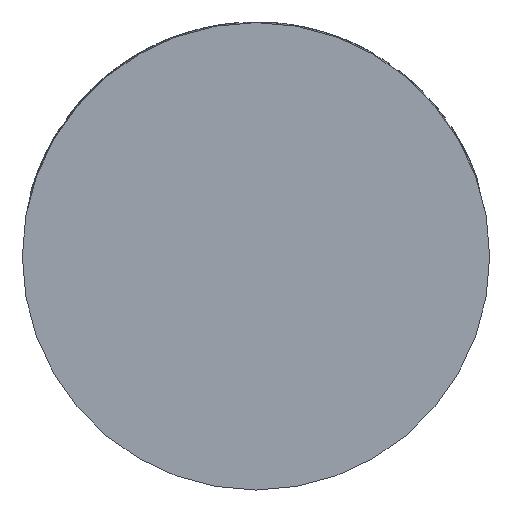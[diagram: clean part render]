
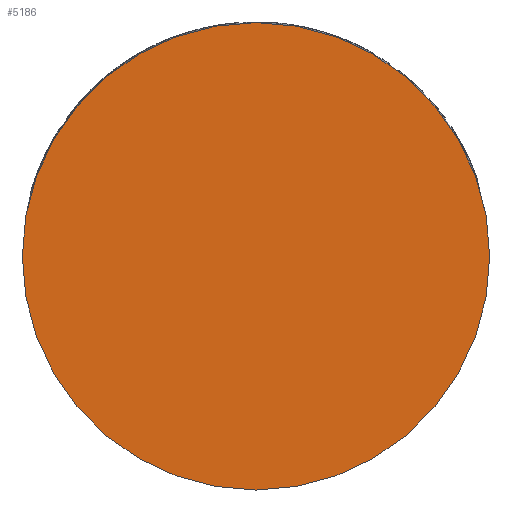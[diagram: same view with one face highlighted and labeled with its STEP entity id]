
A CAD part, front view. The second image highlights one B-rep face of the part: STEP entity #5186.
In plain terms, the highlighted planar face has unit normal (0, -1, 0).
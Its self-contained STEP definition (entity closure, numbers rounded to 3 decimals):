
#219=PLANE('',#5538);
#612=FACE_OUTER_BOUND('',#929,.T.);
#929=EDGE_LOOP('',(#4810));
#1815=CIRCLE('',#5530,38.);
#2546=VERTEX_POINT('',#10685);
#3304=EDGE_CURVE('',#2546,#2546,#1815,.T.);
#4810=ORIENTED_EDGE('',*,*,#3304,.T.);
#5186=ADVANCED_FACE('',(#612),#219,.F.);
#5530=AXIS2_PLACEMENT_3D('',#10686,#6579,#6580);
#5538=AXIS2_PLACEMENT_3D('',#10696,#6595,#6596);
#6579=DIRECTION('center_axis',(0.,-1.,0.));
#6580=DIRECTION('ref_axis',(1.,0.,0.));
#6595=DIRECTION('center_axis',(0.,1.,0.));
#6596=DIRECTION('ref_axis',(0.,0.,1.));
#10685=CARTESIAN_POINT('',(-38.,0.,0.));
#10686=CARTESIAN_POINT('Origin',(0.,0.,0.));
#10696=CARTESIAN_POINT('Origin',(0.,0.,0.));
